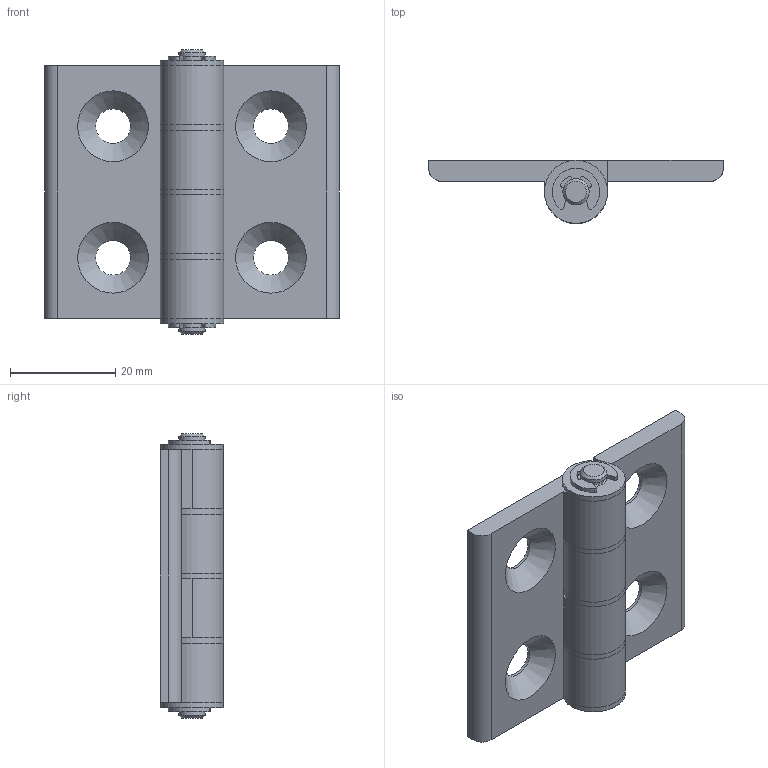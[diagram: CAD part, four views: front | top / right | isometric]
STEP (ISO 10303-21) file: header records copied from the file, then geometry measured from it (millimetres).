
FILE_DESCRIPTION(/* description */ ('Cerniera in Alluminio profilo 30-30'),/* implementation_level */ '2;1');
FILE_NAME(/* name */ 'd:\Users\daniele.berto\Desktop\HE30-30.stp',/* time_stamp */ '2019-06-05T19:14:53+02:00',/* author */ ('daniele.berto'),/* organization */ (''),/* preprocessor_version */ 'ST-DEVELOPER v17.2',/* originating_system */ 'Autodesk Inventor 2019',/* authorisation */ '');
FILE_SCHEMA (('AUTOMOTIVE_DESIGN { 1 0 10303 214 3 1 1 }'));
Length unit declared in the file: millimetre
Products named in the file (1): HE30-30
Bounding box: 56 x 12 x 54 mm (x, y, z)
Volume: 13238.5 mm3; surface area: 10460.4 mm2
Topology: 10 solids, 10 shells, 115 faces, 313 edges, 222 vertices
Faces by surface type: plane 56, cylinder 53, cone 6
Full cylindrical faces by diameter (mm): 4 x2, 5 x12, 6.6 x4, 12 x5
Entity records: 3855 total; most frequent: DIRECTION 709, CARTESIAN_POINT 651, ORIENTED_EDGE 626, EDGE_CURVE 313, AXIS2_PLACEMENT_3D 280, VERTEX_POINT 222, CIRCLE 164, LINE 149
